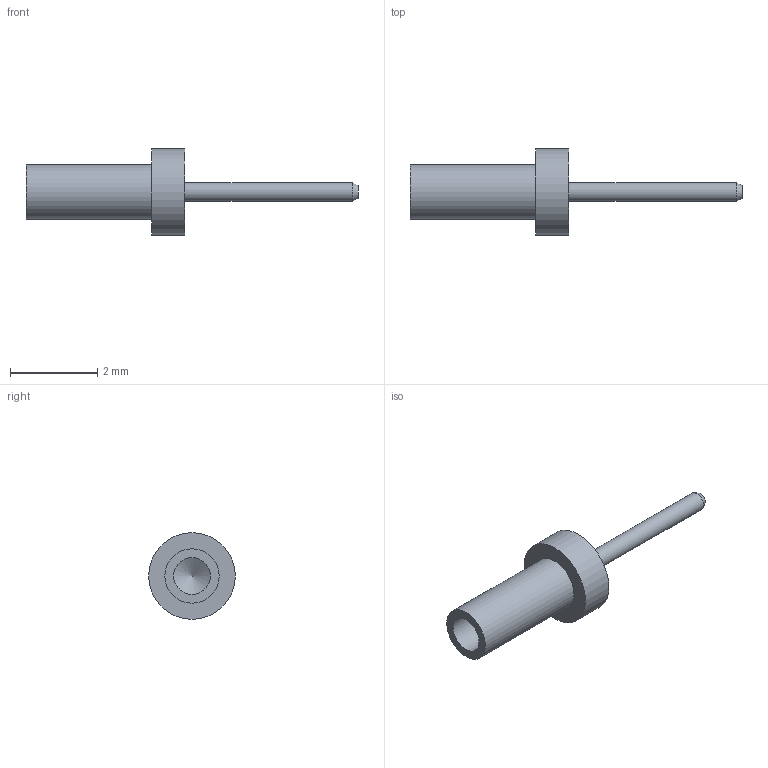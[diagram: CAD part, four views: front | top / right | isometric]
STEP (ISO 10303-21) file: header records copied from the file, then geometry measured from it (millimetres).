
FILE_DESCRIPTION(/* description */ (''),/* implementation_level */ '2;1');
FILE_NAME(/* name */ 'Z:\STEP folder\460259903.ipt.stp',/* time_stamp */ '2016-12-21T13:04:00+00:00',/* author */ ('Paul Karlsons'),/* organization */ (''),/* preprocessor_version */ 'ST-DEVELOPER v15.2',/* originating_system */ 'Autodesk Inventor 2014',/* authorisation */ '');
FILE_SCHEMA (('AUTOMOTIVE_DESIGN { 1 0 10303 214 3 1 1 }'));
Length unit declared in the file: millimetre
Products named in the file (1): 460259903
Bounding box: 7.59 x 1.98 x 1.98 mm (x, y, z)
Volume: 5.5 mm3; surface area: 31.6 mm2
Topology: 1 solids, 1 shells, 10 faces, 16 edges, 10 vertices
Faces by surface type: cylinder 4, plane 4, cone 2
Full cylindrical faces by diameter (mm): 0.432 x1, 0.838 x1, 1.244 x1, 1.98 x1
Entity records: 215 total; most frequent: DIRECTION 40, CARTESIAN_POINT 29, AXIS2_PLACEMENT_3D 20, EDGE_LOOP 18, ORIENTED_EDGE 18, FACE_BOUND 10, ADVANCED_FACE 10, CIRCLE 9
